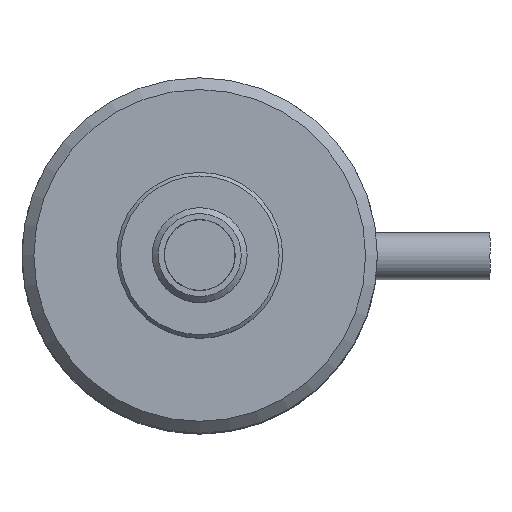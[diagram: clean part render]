
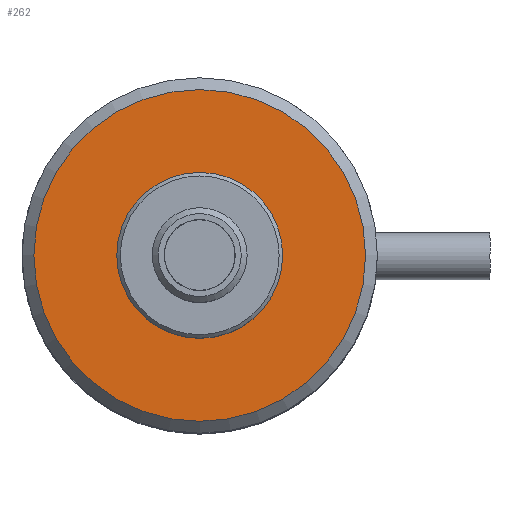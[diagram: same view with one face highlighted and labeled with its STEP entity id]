
A CAD part, top view. The second image highlights one B-rep face of the part: STEP entity #262.
In plain terms, the highlighted planar face has unit normal (0, 0, 1).
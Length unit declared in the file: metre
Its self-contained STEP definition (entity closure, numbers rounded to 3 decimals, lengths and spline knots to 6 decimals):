
#262=ADVANCED_FACE('2:6924',(#649,#650),#651,.T.);
#418=EDGE_CURVE('2:6555',#917,#917,#918,.T.);
#448=EDGE_CURVE('2:7215',#962,#962,#963,.T.);
#649=FACE_BOUND('',#1162,.T.);
#650=FACE_OUTER_BOUND('',#1163,.T.);
#651=PLANE('',#1164);
#917=VERTEX_POINT('',#1523);
#918=CIRCLE('',#1524,0.014);
#962=VERTEX_POINT('',#1583);
#963=CIRCLE('',#1584,0.007);
#1162=EDGE_LOOP('',(#1864));
#1163=EDGE_LOOP('',(#1865));
#1164=AXIS2_PLACEMENT_3D('',#1866,#1867,#1868);
#1523=CARTESIAN_POINT('',(-0.014,0.,0.0495));
#1524=AXIS2_PLACEMENT_3D('',#2208,#2209,#2210);
#1583=CARTESIAN_POINT('',(0.007,0.,0.0495));
#1584=AXIS2_PLACEMENT_3D('',#2253,#2254,#2255);
#1864=ORIENTED_EDGE('',*,*,#448,.F.);
#1865=ORIENTED_EDGE('',*,*,#418,.F.);
#1866=CARTESIAN_POINT('',(0.0,0.0,0.0495));
#1867=DIRECTION('',(0.0,0.0,1.0));
#1868=DIRECTION('',(1.0,0.0,0.0));
#2208=CARTESIAN_POINT('',(0.0,0.0,0.0495));
#2209=DIRECTION('',(-0.0,0.0,-1.0));
#2210=DIRECTION('',(-1.0,0.,0.0));
#2253=CARTESIAN_POINT('',(0.0,0.0,0.0495));
#2254=DIRECTION('',(0.0,0.0,1.0));
#2255=DIRECTION('',(1.0,0.,0.0));
